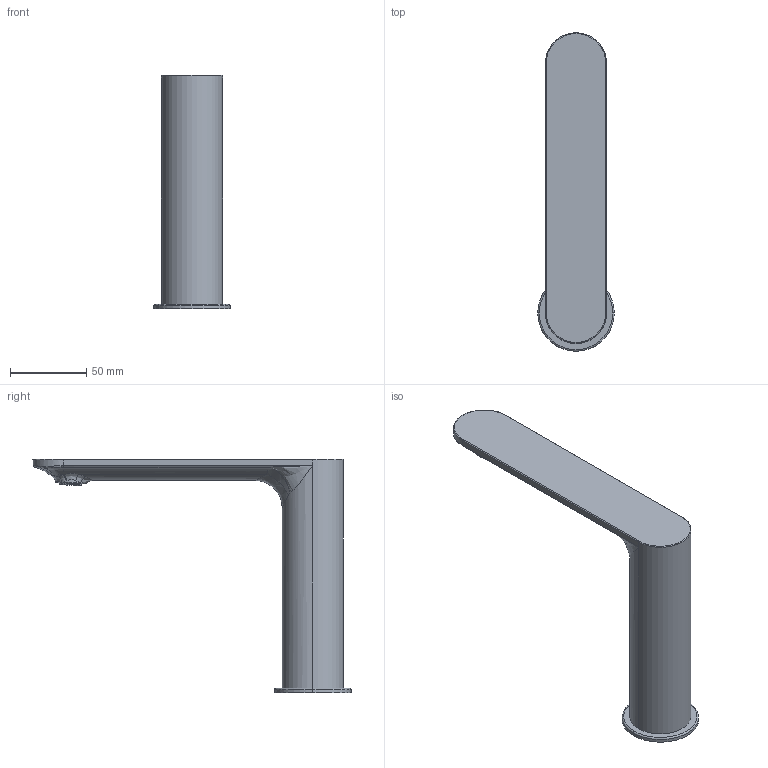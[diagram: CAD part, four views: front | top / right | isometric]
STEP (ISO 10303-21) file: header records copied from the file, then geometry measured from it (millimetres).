
FILE_DESCRIPTION (( 'STEP AP214' ), '1' );
FILE_NAME ('9921Q710 x architetti.STEP', '2025-01-10T12:47:19', ( '' ), ( '' ), 'SwSTEP 2.0', 'SolidWorks 2020', '' );
FILE_SCHEMA (( 'AUTOMOTIVE_DESIGN' ));
Length unit declared in the file: millimetre
Products named in the file (3): 9921Q710 x architetti; F0005899; 9921Q710
Assembly tree (2 placements, depth 2):
  9921Q710 x architetti
    9921Q710
    F0005899
Bounding box: 50 x 208 x 153 mm (x, y, z)
Volume: 263242 mm3; surface area: 39602.3 mm2
Topology: 2 solids, 2 shells, 3893 faces, 9957 edges, 6429 vertices
Faces by surface type: plane 2971, cone 419, cylinder 379, bspline 119, torus 5
Entity records: 156676 total; most frequent: CARTESIAN_POINT 43161, ORIENTED_EDGE 19910, DIRECTION 12357, EDGE_CURVE 9955, VERTEX_POINT 6429, B_SPLINE_CURVE_WITH_KNOTS 5081, EDGE_LOOP 4256, AXIS2_PLACEMENT_3D 4127
